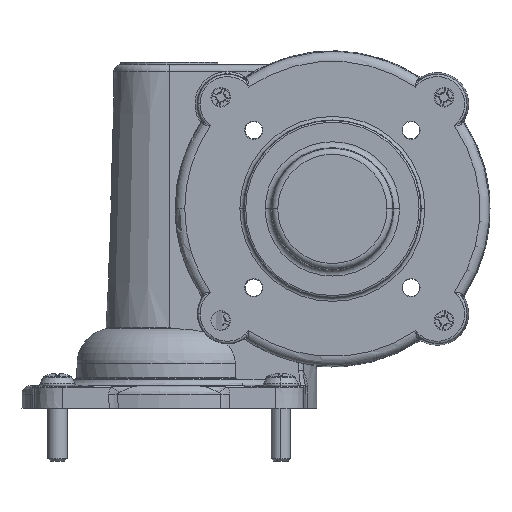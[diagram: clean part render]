
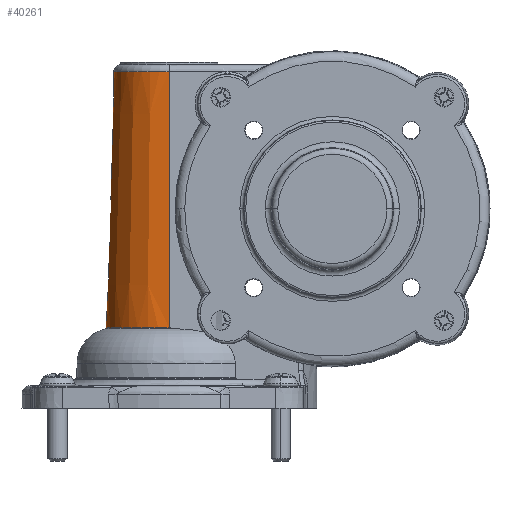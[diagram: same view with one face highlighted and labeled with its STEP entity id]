
A CAD part, left-side view. The second image highlights one B-rep face of the part: STEP entity #40261.
In plain terms, the highlighted conical face has half-angle 1.727 degrees and reference radius 12.655 mm.
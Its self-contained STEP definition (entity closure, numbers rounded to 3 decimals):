
#735 = ORIENTED_EDGE ( 'NONE', *, *, #32679, .T. ) ;
#2934 = DIRECTION ( 'NONE',  ( 0., -1., 0. ) ) ;
#9750 = CARTESIAN_POINT ( 'NONE',  ( 0., 34.925, -25.441 ) ) ;
#10350 = CONICAL_SURFACE ( 'NONE', #24851, 12.655, 0.03 ) ;
#11130 = CARTESIAN_POINT ( 'NONE',  ( -11.828, 34.925, 29.384 ) ) ;
#11509 = EDGE_LOOP ( 'NONE', ( #20164, #49677, #17096, #735 ) ) ;
#12439 = CARTESIAN_POINT ( 'NONE',  ( 13.482, 34.925, -25.441 ) ) ;
#12988 = CARTESIAN_POINT ( 'NONE',  ( 11.828, 34.925, 29.384 ) ) ;
#14012 = DIRECTION ( 'NONE',  ( 0., -1., 0. ) ) ;
#16503 = CARTESIAN_POINT ( 'NONE',  ( -13.482, 34.925, -25.441 ) ) ;
#17096 = ORIENTED_EDGE ( 'NONE', *, *, #44561, .T. ) ;
#17748 = AXIS2_PLACEMENT_3D ( 'NONE', #23713, #33123, #20602 ) ;
#18003 = VERTEX_POINT ( 'NONE', #12988 ) ;
#20164 = ORIENTED_EDGE ( 'NONE', *, *, #50042, .T. ) ;
#20602 = DIRECTION ( 'NONE',  ( 0., -1., 0. ) ) ;
#23713 = CARTESIAN_POINT ( 'NONE',  ( 0., 34.925, 29.384 ) ) ;
#24213 = VERTEX_POINT ( 'NONE', #11130 ) ;
#24775 = DIRECTION ( 'NONE',  ( 0., 0., -1. ) ) ;
#24851 = AXIS2_PLACEMENT_3D ( 'NONE', #29079, #24775, #2934 ) ;
#25999 = AXIS2_PLACEMENT_3D ( 'NONE', #9750, #35636, #14012 ) ;
#29079 = CARTESIAN_POINT ( 'NONE',  ( 0., 34.925, 1.971 ) ) ;
#29184 = CARTESIAN_POINT ( 'NONE',  ( -12.655, 34.925, 1.971 ) ) ;
#29584 = CIRCLE ( 'NONE', #17748, 11.828 ) ;
#31728 = FACE_OUTER_BOUND ( 'NONE', #11509, .T. ) ;
#32679 = EDGE_CURVE ( 'NONE', #24213, #18003, #29584, .T. ) ;
#33123 = DIRECTION ( 'NONE',  ( 0., 0., -1. ) ) ;
#33529 = EDGE_CURVE ( 'NONE', #37251, #51902, #50603, .T. ) ;
#35636 = DIRECTION ( 'NONE',  ( 0., 0., -1. ) ) ;
#37251 = VERTEX_POINT ( 'NONE', #16503 ) ;
#40261 = ADVANCED_FACE ( 'NONE', ( #31728 ), #10350, .T. ) ;
#40734 = CARTESIAN_POINT ( 'NONE',  ( 12.655, 34.925, 1.971 ) ) ;
#42476 = VECTOR ( 'NONE', #49592, 1000. ) ;
#44350 = VECTOR ( 'NONE', #50834, 1000. ) ;
#44561 = EDGE_CURVE ( 'NONE', #37251, #24213, #54858, .T. ) ;
#49592 = DIRECTION ( 'NONE',  ( 0.03, 0., -1. ) ) ;
#49677 = ORIENTED_EDGE ( 'NONE', *, *, #33529, .F. ) ;
#50042 = EDGE_CURVE ( 'NONE', #18003, #51902, #50137, .T. ) ;
#50137 = LINE ( 'NONE', #40734, #42476 ) ;
#50603 = CIRCLE ( 'NONE', #25999, 13.482 ) ;
#50834 = DIRECTION ( 'NONE',  ( 0.03, 0., 1. ) ) ;
#51902 = VERTEX_POINT ( 'NONE', #12439 ) ;
#54858 = LINE ( 'NONE', #29184, #44350 ) ;
